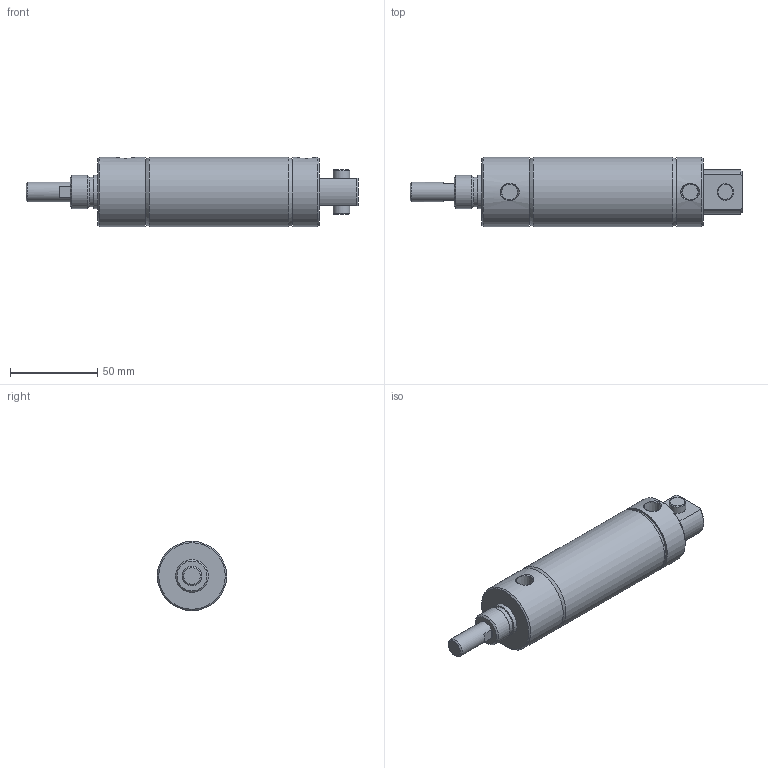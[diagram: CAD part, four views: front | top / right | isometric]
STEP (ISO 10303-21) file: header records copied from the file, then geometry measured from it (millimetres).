
FILE_DESCRIPTION( ( 'STEP AP214' ), '1' );
FILE_NAME( 'p:/temp/worker_460/temp/exporttempdir_1388_102_Nr6eD/format_0/1500D02-02A-03.stp', '2020-05-07T18:42:00', ( 'License CC BY-ND 4.0' ), ( 'CADENAS' ), ' ', 'PARTsolutions', ' ' );
FILE_SCHEMA( ( 'AUTOMOTIVE_DESIGN { 1 0 10303 214 1 1 1 1 }' ) );
Length unit declared in the file: inch
Products named in the file (3): 1500D02-02A-03; _1500D02-02A-0300A00A0b; _1500D02-02A-0300A00A0r
Assembly tree (2 placements, depth 2):
  1500D02-02A-03
    _1500D02-02A-0300A00A0b
    _1500D02-02A-0300A00A0r
Bounding box: 190.5 x 39.7 x 39.7 mm (x, y, z)
Volume: 118000.5 mm3; surface area: 45310.8 mm2
Topology: 2 solids, 2 shells, 55 faces, 99 edges, 63 vertices
Faces by surface type: plane 25, cylinder 15, cone 15
Full cylindrical faces by diameter (mm): 9.525 x2, 11.125 x3, 17.178 x1, 19.05 x2, 38.1 x2, 39.7 x3
Entity records: 1834 total; most frequent: CARTESIAN_POINT 348, DIRECTION 228, ORIENTED_EDGE 140, AXIS2_PLACEMENT_3D 106, EDGE_LOOP 96, EDGE_CURVE 70, FACE_OUTER_BOUND 68, VERTEX_POINT 60
